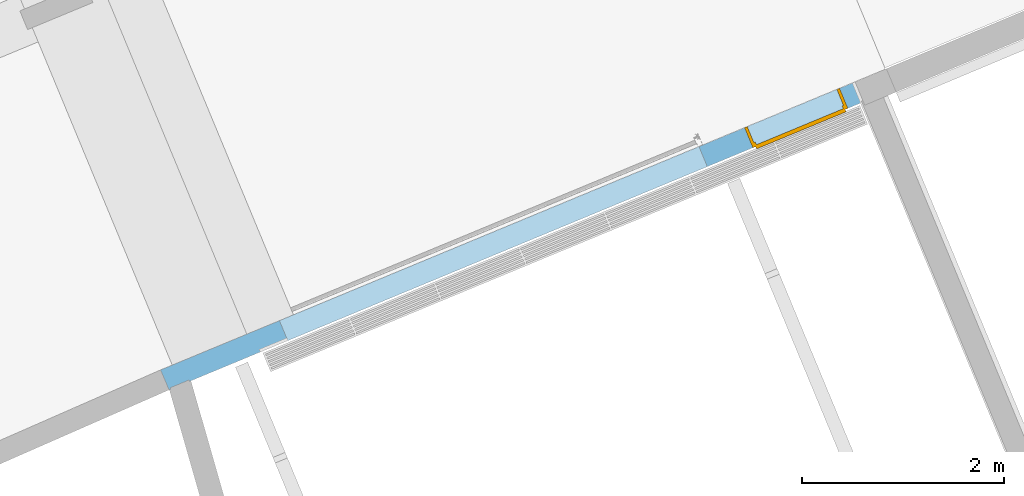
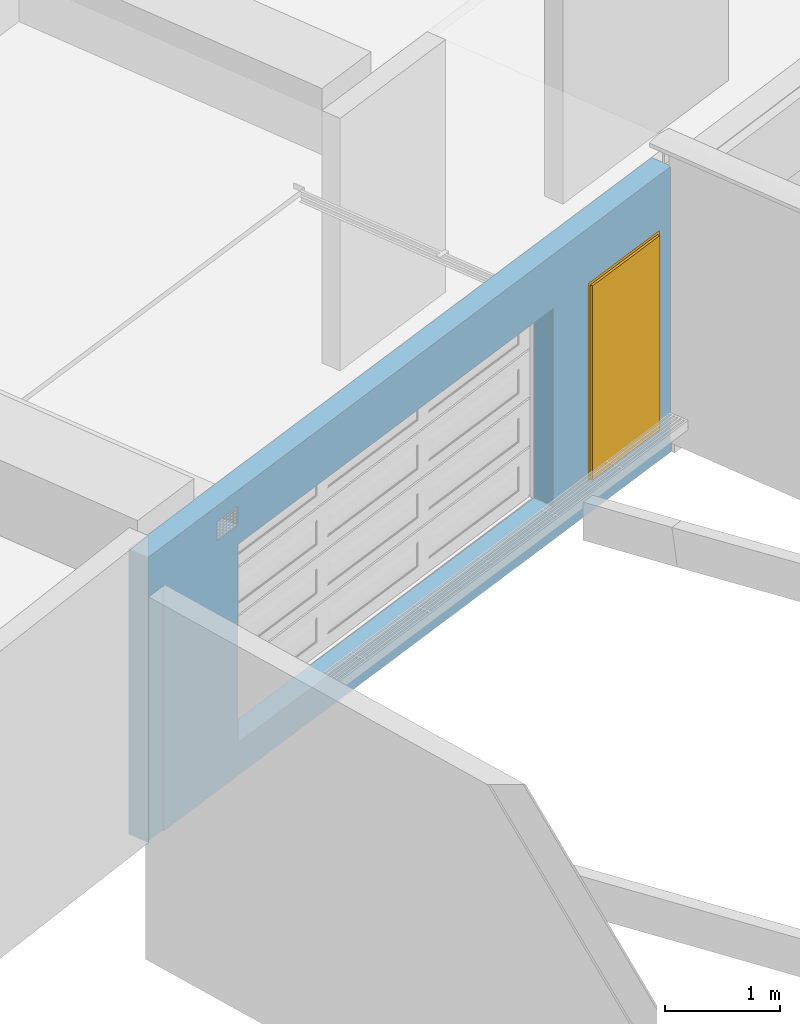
# One storey, part 8 of 20: 1 door, 3 openings, plus 1 element that does not belong to this part.
"""IFC2X3 building model written with IfcOpenShell, lengths in metres."""

from ifc_helpers import new_model, entity, si_unit, converted_unit, derived_unit, money_unit, direction, frame, origin_with_axes, place, context, subcontext, project, spatial, faceted_brep, material, material_list, type_object, element, fill, save


model = new_model("IFC2X3")

# Units and contexts
model_context = context("Model", 3, precision=1e-05, world=origin_with_axes(), true_north=direction((0.0, 1.0)))
body_context = subcontext(model_context, "Body", "Model", "MODEL_VIEW")
ifc_project = project(units=[si_unit("LENGTHUNIT", "METRE"), si_unit("AREAUNIT", "SQUARE_METRE"), si_unit("VOLUMEUNIT", "CUBIC_METRE"), converted_unit("PLANEANGLEUNIT", "DEGREE", entity("IfcPlaneAngleMeasure", 0.0174532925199), si_unit("PLANEANGLEUNIT", "RADIAN"), dimensions=[0, 0, 0, 0, 0, 0, 0]), si_unit("SOLIDANGLEUNIT", "STERADIAN"), money_unit("EUR"), converted_unit("TIMEUNIT", "Year", entity("IfcTimeMeasure", 31556926.0), si_unit("TIMEUNIT", "SECOND"), dimensions=[0, 0, 1, 0, 0, 0, 0]), si_unit("MASSUNIT", "GRAM", prefix="KILO"), si_unit("THERMODYNAMICTEMPERATUREUNIT", "DEGREE_CELSIUS"), si_unit("LUMINOUSINTENSITYUNIT", "LUMEN"), si_unit("ENERGYUNIT", "JOULE", prefix="MEGA"), derived_unit("THERMALCONDUCTANCEUNIT", [(si_unit("POWERUNIT", "WATT"), 1), (si_unit("LENGTHUNIT", "METRE"), -1), (si_unit("THERMODYNAMICTEMPERATUREUNIT", "KELVIN"), -1)]), derived_unit("SPECIFICHEATCAPACITYUNIT", [(si_unit("ENERGYUNIT", "JOULE"), 1), (si_unit("MASSUNIT", "GRAM", prefix="KILO"), -1), (si_unit("THERMODYNAMICTEMPERATUREUNIT", "KELVIN"), -1)]), derived_unit("MASSDENSITYUNIT", [(si_unit("MASSUNIT", "GRAM", prefix="KILO"), 1), (si_unit("VOLUMEUNIT", "CUBIC_METRE"), -1)])], contexts=[model_context])

# Site, building, storey
site_placement = place(None, origin_with_axes())
site = spatial("IfcSite", under=ifc_project, at=site_placement, Name="Site", CompositionType="ELEMENT")
building_placement = place(site_placement, origin_with_axes())
building = spatial("IfcBuilding", under=site, at=building_placement, Name="Bâtiment", CompositionType="ELEMENT")
storey_placement = place(building_placement, frame((0.0, 0.0, -2.9), z_axis=(0.0, 0.0, 1.0), x_axis=(1.0, 0.0, 0.0)))
storey = spatial("IfcBuildingStorey", under=building, at=storey_placement, Name="Sous-sol", CompositionType="ELEMENT", Elevation=-2.9)

# Wall, openings, door
ifc_material_1 = material(Name="Béton")
ifc_material_2 = material(Name="Finition ext - Crépis")
ifc_material_list = material_list([ifc_material_1, ifc_material_2])
wall_type = type_object("IfcWallType", Name="1 - Mur Extérieur Béton 20+ ravalement 1 face 215", PredefinedType="USERDEFINED")
wall_placement = place(storey_placement, frame((-20.8034364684, -28.4877537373, -0.35), z_axis=(0.0, 0.0, 1.0), x_axis=(0.923701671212, 0.383112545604, 0.0)))
wall = element("IfcWall", 1, at=wall_placement, inside=storey, type_object=wall_type, material=ifc_material_list, Name="Voile béton banché 20cm", ObjectType="SOLIDWALL", context=body_context, shape_type="Brep", body=[
    faceted_brep([(7.44751907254, 0.2, 0.0999999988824), (7.44751907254, 0.2, 0.0), (-0.00203159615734, 0.199999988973, 0.0), (-0.00203159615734, 0.199999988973, 3.02), (0.123053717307, 0.199999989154, 3.02), (0.123053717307, 0.199999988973, 2.45), (0.923053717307, 0.199999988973, 2.45), (0.923053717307, 0.199999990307, 3.02), (7.45326520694, 0.199999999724, 3.02), (7.4532652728, 0.2, 0.1), (0.977034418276, 0.199999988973, 2.85), (0.977034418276, 0.199999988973, 2.65), (1.27703441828, 0.199999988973, 2.65), (1.27703441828, 0.199999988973, 2.85), (7.28114427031, 0.199999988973, 0.35), (7.28114427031, 0.199999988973, 2.435), (6.26114427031, 0.199999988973, 2.435), (6.26114427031, 0.199999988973, 0.35), (1.27305371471, 0.199999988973, 0.35), (5.77305371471, 0.199999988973, 0.35), (5.77305371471, 0.199999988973, 2.45), (1.27305371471, 0.199999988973, 2.45), (7.44751907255, 0.199975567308, 0.1), (7.44751907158, 0.199975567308, 3.02), (7.44751907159, 1.71471725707e-10, 3.02), (7.44751907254, -9.68576330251e-10, 0.0), (0.0, 6.55651888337e-09, 0.0), (0.0, 6.55651888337e-09, 3.02), (0.923053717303, 0.196095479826, 3.02), (0.123053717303, 0.196095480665, 3.02), (0.123053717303, 0.196095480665, 2.45), (0.923053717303, 0.196095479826, 2.45), (0.977034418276, 6.55652243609e-09, 2.85), (0.977034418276, 6.55652243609e-09, 2.65), (1.27703441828, 6.55651888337e-09, 2.65), (1.27703441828, 6.55651888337e-09, 2.85), (7.28114427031, 6.55651888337e-09, 2.435), (7.28114427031, 6.55651888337e-09, 0.35), (6.26114427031, 6.55651888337e-09, 2.435), (6.26114427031, 6.55651888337e-09, 0.35), (1.27305371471, -9.68576330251e-10, 0.35), (5.77305371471, -9.68576330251e-10, 0.35), (5.77305371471, -9.68576330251e-10, 2.45), (1.27305371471, -9.68576330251e-10, 2.45)], [[[0, 1, 2, 3, 4, 5, 6, 7, 8, 9], [10, 11, 12, 13], [14, 15, 16, 17], [18, 19, 20, 21]], [[1, 0, 22, 23, 24, 25]], [[1, 25, 26, 2]], [[3, 2, 26, 27]], [[27, 24, 23, 8, 7, 28, 29, 4, 3]], [[30, 5, 4, 29]], [[30, 31, 6, 5]], [[6, 31, 28, 7]], [[9, 8, 23, 22]], [[22, 0, 9]], [[10, 32, 33, 11]], [[11, 33, 34, 12]], [[12, 34, 35, 13]], [[13, 35, 32, 10]], [[36, 15, 14, 37]], [[38, 16, 15, 36]], [[39, 17, 16, 38]], [[37, 14, 17, 39]], [[40, 41, 19, 18]], [[41, 42, 20, 19]], [[42, 43, 21, 20]], [[43, 40, 18, 21]], [[24, 27, 26, 25], [34, 33, 32, 35], [38, 36, 37, 39], [40, 43, 42, 41]], [[31, 30, 29, 28]]]),
    faceted_brep([(0.0, 6.55651888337e-09, 0.0), (0.0, 6.55651888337e-09, 3.02), (7.43251907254, 1.84328996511e-10, 3.02), (7.43251907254, -9.68576330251e-10, 0.1), (7.44751907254, -9.68569224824e-10, 0.1), (7.44751907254, -9.68576330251e-10, 0.0), (0.221290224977, 6.33292529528e-09, 0.0), (0.22129022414, -9.68576330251e-10, 2.6), (0.0199823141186, -9.68576330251e-10, 2.6), (0.0199823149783, 6.53633236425e-09, 0.0), (0.977034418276, 6.55652243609e-09, 2.85), (0.977034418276, 6.55652243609e-09, 2.65), (1.27703441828, 6.55651888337e-09, 2.65), (1.27703441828, 6.55651888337e-09, 2.85), (7.28114427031, 6.33292529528e-09, 0.35), (7.28114427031, 6.33292529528e-09, 2.435), (6.26114427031, 6.33292529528e-09, 2.435), (6.26114427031, 6.33292529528e-09, 0.35), (1.27305371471, -9.68576330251e-10, 0.35), (5.77305371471, -9.68576330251e-10, 0.35), (5.77305371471, -9.68576330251e-10, 2.45), (1.27305371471, -9.68576330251e-10, 2.45), (0.000152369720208, -0.015, 0.0), (0.000152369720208, -0.015, 3.02), (7.43251907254, -0.015, 3.02), (7.43251907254, -0.015, 0.1), (7.44751907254, -0.015, 0.1), (7.44751907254, -0.015, 0.0), (0.219571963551, -0.015, 0.0), (0.219571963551, -0.015, 2.6), (0.0182640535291, -0.015, 2.6), (0.0182640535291, -0.015, 0.0), (0.977034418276, -0.015, 2.85), (0.977034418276, -0.015, 2.65), (1.27703441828, -0.015, 2.65), (1.27703441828, -0.015, 2.85), (7.28114427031, -0.015, 2.435), (7.28114427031, -0.015, 0.35), (6.26114427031, -0.015, 2.435), (6.26114427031, -0.015, 0.35), (1.27305371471, -0.015, 0.35), (5.77305371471, -0.015, 0.35), (5.77305371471, -0.015, 2.45), (1.27305371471, -0.015, 2.45)], [[[0, 1, 2, 3, 4, 5, 6, 7, 8, 9], [10, 11, 12, 13], [14, 15, 16, 17], [18, 19, 20, 21]], [[1, 0, 22, 23]], [[24, 2, 1, 23]], [[2, 24, 25, 3]], [[25, 26, 4, 3]], [[4, 26, 27, 5]], [[28, 6, 5, 27]], [[28, 29, 7, 6]], [[29, 30, 8, 7]], [[30, 31, 9, 8]], [[9, 31, 22, 0]], [[10, 32, 33, 11]], [[11, 33, 34, 12]], [[12, 34, 35, 13]], [[13, 35, 32, 10]], [[36, 15, 14, 37]], [[38, 16, 15, 36]], [[39, 17, 16, 38]], [[37, 14, 17, 39]], [[40, 41, 19, 18]], [[41, 42, 20, 19]], [[42, 43, 21, 20]], [[43, 40, 18, 21]], [[29, 28, 27, 26, 25, 24, 23, 22, 31, 30], [34, 33, 32, 35], [38, 36, 37, 39], [40, 43, 42, 41]]]),
])
opening_1_placement = place(wall_placement, frame((30.1301848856, 18.3441282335, 3.25), z_axis=(0.0, 0.0, 1.0), x_axis=(0.923701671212, -0.383112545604, 0.0)))
element("IfcOpeningElement", 2, at=opening_1_placement, cuts=wall, Name="PERCEMENT-002", context=body_context, shape_type="Brep", body=[
    faceted_brep([(-18.474179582, -31.5534431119, -0.6), (-18.474179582, -31.5534431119, -0.4), (-22.2714959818, -22.3979415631, -0.4), (-22.2714959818, -22.3979415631, -0.6), (-18.1493993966, -31.5534431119, -0.6), (-18.1493993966, -31.5534431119, -0.4), (-21.9467157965, -22.3979415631, -0.4), (-21.9467157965, -22.3979415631, -0.6)], [[[0, 1, 2, 3]], [[0, 4, 5, 1]], [[1, 5, 6, 2]], [[3, 2, 6, 7]], [[4, 0, 3, 7]], [[5, 4, 7, 6]]]),
])
opening_2_placement = place(wall_placement, frame((6.77114427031, 0.0, 0.35), z_axis=(0.0, 0.0, 1.0), x_axis=(1.0, 0.0, 0.0)))
opening_2 = element("IfcOpeningElement", 3, at=opening_2_placement, cuts=wall, Name="Porte acier 1V 93x204", context=body_context, shape_type="Brep", body=[
    faceted_brep([(0.51, -0.215, 0.0), (-0.51, -0.215, 0.0), (-0.51, 0.215, 0.0), (0.51, 0.215, 0.0), (0.51, -0.215, 2.085), (-0.51, -0.215, 2.085), (-0.51, 0.215, 2.085), (0.51, 0.215, 2.085)], [[[0, 1, 2, 3]], [[0, 4, 5, 1]], [[1, 5, 6, 2]], [[3, 2, 6, 7]], [[4, 0, 3, 7]], [[5, 4, 7, 6]]]),
])
opening_3_placement = place(wall_placement, frame((3.52305371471, 0.0, 0.35), z_axis=(0.0, 0.0, 1.0), x_axis=(1.0, 0.0, 0.0)))
element("IfcOpeningElement", 4, at=opening_3_placement, cuts=wall, Name="Porte acier motorisée 450x210", context=body_context, shape_type="Brep", body=[
    faceted_brep([(-2.25, -0.43, 0.0), (-2.25, -0.43, 2.1), (-2.25, 0.215, 2.1), (-2.25, 0.215, 0.0), (2.25, -0.43, 0.0), (2.25, -0.43, 2.1), (2.25, 0.215, 2.1), (2.25, 0.215, 0.0)], [[[0, 1, 2, 3]], [[0, 4, 5, 1]], [[1, 5, 6, 2]], [[3, 2, 6, 7]], [[4, 0, 3, 7]], [[5, 4, 7, 6]]]),
])
door_style = type_object("IfcDoorStyle", Name="Porte int générique 2019", ConstructionType="NOTDEFINED", OperationType="SINGLE_SWING_LEFT", ParameterTakesPrecedence=False, Sizeable=False)
door_placement = place(opening_2_placement, frame((0.465, 0.0, 0.0), z_axis=(0.0, 0.0, 1.0), x_axis=(-1.0, 0.0, 0.0)))
door = element("IfcDoor", 5, at=door_placement, inside=storey, type_object=door_style, Name="Porte acier 1V 93x204", ObjectType="DOOR", OverallHeight=2.04, OverallWidth=0.93, context=body_context, shape_type="Brep", body=[
    faceted_brep([(-0.045, 0.015, 0.0), (-0.045, 0.015, 2.085), (0.975, 0.015, 2.085), (0.975, 0.015, 0.0), (0.945, 0.015, 0.0), (0.945, 0.015, 2.055), (-0.015, 0.015, 2.055), (-0.015, 0.015, 0.0), (-0.045, -0.2, 0.0), (-0.045, -0.2, 2.085), (0.975, -0.2, 2.085), (0.975, -0.2, 0.0), (0.945, -0.2, 0.0), (0.945, -0.03, 0.0), (0.93, -0.03, 0.0), (0.93, 0.0, 0.0), (0.945, 0.0, 0.0), (0.945, 0.0, 2.055), (-0.015, 0.0, 2.055), (-0.015, 0.0, 0.0), (0.0, 0.0, 0.0), (0.0, -0.03, 0.0), (-0.015, -0.03, 0.0), (-0.015, -0.2, 0.0), (-0.015, -0.2, 2.055), (0.945, -0.2, 2.055), (0.945, -0.03, 2.055), (0.0, -0.03, 2.04), (0.93, -0.03, 2.04), (-0.015, -0.03, 2.055), (0.93, 0.0, 2.04), (0.0, 0.0, 2.04)], [[[0, 1, 2, 3, 4, 5, 6, 7]], [[8, 9, 1, 0]], [[9, 10, 2, 1]], [[10, 11, 3, 2]], [[3, 11, 12, 13, 14, 15, 16, 4]], [[5, 4, 16, 17]], [[6, 5, 17, 18]], [[7, 6, 18, 19]], [[0, 7, 19, 20, 21, 22, 23, 8]], [[23, 24, 25, 12, 11, 10, 9, 8]], [[26, 13, 12, 25]], [[21, 27, 28, 14, 13, 26, 29, 22]], [[30, 15, 14, 28]], [[19, 18, 17, 16, 15, 30, 31, 20]], [[20, 31, 27, 21]], [[22, 29, 24, 23]], [[29, 26, 25, 24]], [[31, 30, 28, 27]]]),
    faceted_brep([(-0.015, 0.04, 0.0), (0.945, 0.04, 0.0), (0.945, 0.0, 0.0), (-0.015, 0.0, 0.0), (-0.015, 0.04, 2.055), (0.945, 0.04, 2.055), (0.945, 0.0, 2.055), (-0.015, 0.0, 2.055)], [[[0, 1, 2, 3]], [[0, 4, 5, 1]], [[1, 5, 6, 2]], [[3, 2, 6, 7]], [[4, 0, 3, 7]], [[5, 4, 7, 6]]]),
])
fill(opening_2, door)

save(model, "model.ifc")
